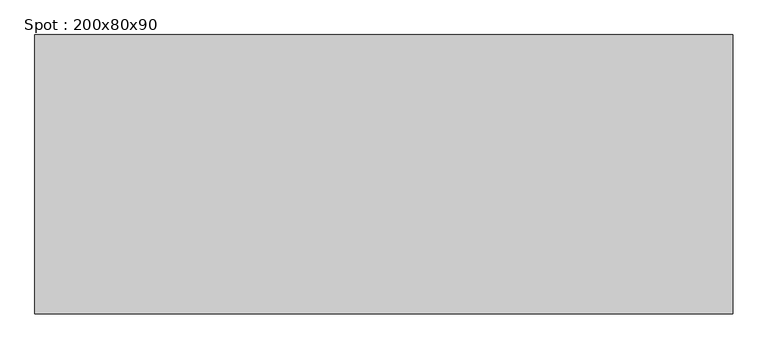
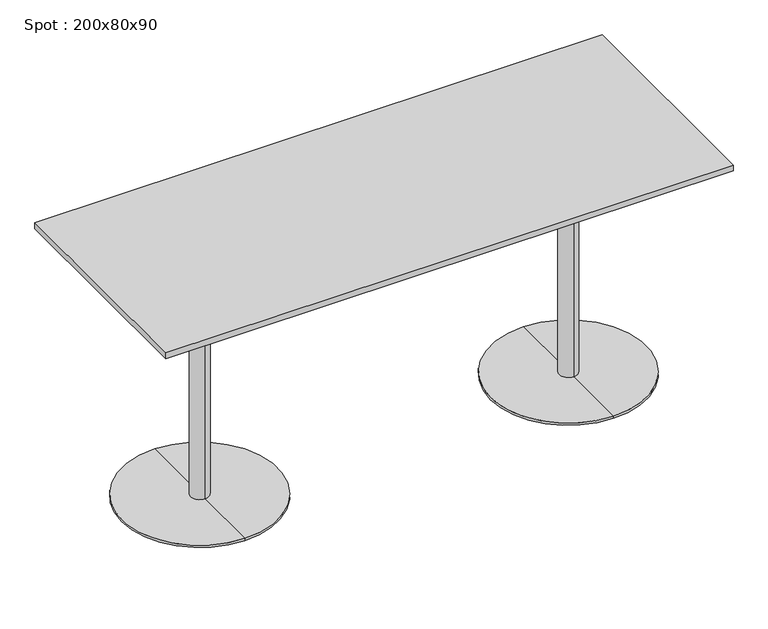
"""IFC4 building model written with IfcOpenShell, lengths in millimetres: furniture geometry, Spot : 200x80x90."""

import ifcopenshell
import ifcopenshell.guid

model = None  # the IFC model being written
_history = None  # IfcOwnerHistory: only IFC2X3 demands one
_inside = {}  # id of a spatial element -> (the spatial element, [elements in it])
_under = {}  # id of a project, library or spatial element -> (it, [spatial elements below it])
_declared = {}  # id of a project -> (the project, [libraries it declares])
_typed = {}  # id of a type object -> (the type object, [elements of that type])
_made_of = {}  # id of a material, layer set ... -> (it, [elements and type objects made of it])


def new_model(schema):
    """Start an empty IFC model of exactly this schema.

    Asked for "IFC4X3", IfcOpenShell would pick the latest addendum, in which some entities
    have other attributes; the version numbers below select the first issue.
    IFC2X3 requires an IfcOwnerHistory on every rooted entity: one is made here for all.
    """
    global model, _history
    if schema == "IFC4X3":
        model = ifcopenshell.file(schema_version=(4, 3, 0, 0))
    else:
        model = ifcopenshell.file(schema=schema)
    _inside.clear()
    _under.clear()
    _declared.clear()
    _typed.clear()
    _made_of.clear()
    _history = None
    if model.schema == "IFC2X3":
        org = make("IfcOrganization", Name="unknown")
        user = make(
            "IfcPersonAndOrganization",
            ThePerson=make("IfcPerson", FamilyName="unknown"),
            TheOrganization=org,
        )
        app = make(
            "IfcApplication",
            ApplicationDeveloper=org,
            Version="unknown",
            ApplicationFullName="unknown",
            ApplicationIdentifier="unknown",
        )
        _history = make(
            "IfcOwnerHistory",
            OwningUser=user,
            OwningApplication=app,
            ChangeAction="ADDED",
            CreationDate=0,
        )
    return model


def make(cls, **values):
    """One entity of the class cls with the attributes given. An attribute that is None is left unset."""
    return model.create_entity(
        cls, **{name: value for name, value in values.items() if value is not None}
    )


def rooted(cls, **values):
    """An entity with a GlobalId (a new one), such as an element, a storey or a relation."""
    return make(cls, GlobalId=ifcopenshell.guid.new(), OwnerHistory=_history, **values)


def si_unit(unit_type, name, prefix=None):
    """IfcSIUnit, for example si_unit("LENGTHUNIT", "METRE", prefix="MILLI")."""
    return make("IfcSIUnit", UnitType=unit_type, Prefix=prefix, Name=name)


def assignment(units):
    """IfcUnitAssignment: the units of a project."""
    return None if units is None else make("IfcUnitAssignment", Units=units)


def point(xyz):
    """IfcCartesianPoint."""
    return None if xyz is None else make("IfcCartesianPoint", Coordinates=xyz)


def direction(xyz):
    """IfcDirection."""
    return None if xyz is None else make("IfcDirection", DirectionRatios=xyz)


def frame(location, z_axis=None, x_axis=None):
    """IfcAxis2Placement3D, a coordinate frame: its origin and axes. An axis left out is left unset."""
    return make(
        "IfcAxis2Placement3D",
        Location=point(location),
        Axis=direction(z_axis),
        RefDirection=direction(x_axis),
    )


def origin():
    """The frame at (0, 0, 0) with its axes left unset."""
    return frame((0.0, 0.0, 0.0))


def place(relative_to, where):
    """IfcLocalPlacement: puts the frame where relative to a parent placement (None: the world)."""
    return make(
        "IfcLocalPlacement", PlacementRelTo=relative_to, RelativePlacement=where
    )


def context(
    kind, dimensions, precision=None, world=None, true_north=None, identifier=None
):
    """IfcGeometricRepresentationContext, for example the 3D "Model" context."""
    return make(
        "IfcGeometricRepresentationContext",
        ContextIdentifier=identifier,
        ContextType=kind,
        CoordinateSpaceDimension=dimensions,
        Precision=precision,
        WorldCoordinateSystem=world,
        TrueNorth=true_north,
    )


def project(units=None, contexts=None):
    """IfcProject with its units and contexts."""
    return rooted(
        "IfcProject",
        Name="project",
        RepresentationContexts=contexts,
        UnitsInContext=assignment(units),
    )


def spatial(cls, under=None, at=None, **own):
    """A site, building, storey or space (cls), placed at a placement, below another one or the project."""
    s = rooted(cls, ObjectPlacement=at, **own)
    if under is not None:
        _under.setdefault(under.id(), (under, []))[1].append(s)
    return s


def polyline(points):
    """IfcPolyline through the points."""
    return make("IfcPolyline", Points=[point(p) for p in points])


def circle_curve(where, radius):
    """IfcCircle in the frame where."""
    return make("IfcCircle", Position=where, Radius=radius)


def outline(outer, holes=None, kind="AREA"):
    """IfcArbitraryClosedProfileDef: a profile drawn as a closed curve; with holes, ...WithVoids."""
    if holes is None:
        return make("IfcArbitraryClosedProfileDef", ProfileType=kind, OuterCurve=outer)
    return make(
        "IfcArbitraryProfileDefWithVoids",
        ProfileType=kind,
        OuterCurve=outer,
        InnerCurves=holes,
    )


def extrude(swept, where, along, depth):
    """IfcExtrudedAreaSolid: the profile swept, set in the frame where, extruded along a direction by depth."""
    return make(
        "IfcExtrudedAreaSolid",
        SweptArea=swept,
        Position=where,
        ExtrudedDirection=direction(along),
        Depth=depth,
    )


def shape(context_of_items, identifier, shape_type, items):
    """IfcShapeRepresentation: the items that make up one representation, for example the "Body"."""
    return make(
        "IfcShapeRepresentation",
        ContextOfItems=context_of_items,
        RepresentationIdentifier=identifier,
        RepresentationType=shape_type,
        Items=items,
    )


def source(mapping_origin, context_of_items, identifier, shape_type, items):
    """IfcRepresentationMap: a shape defined once, which mapped items show again and again."""
    return make(
        "IfcRepresentationMap",
        MappingOrigin=mapping_origin,
        MappedRepresentation=shape(context_of_items, identifier, shape_type, items),
    )


def transform(
    local_origin,
    x_axis=None,
    y_axis=None,
    z_axis=None,
    scale=None,
    scale2=None,
    scale3=None,
    uniform=True,
):
    """IfcCartesianTransformationOperator3D, or its non-uniform kind. x_axis, y_axis, z_axis: its Axis1, 2, 3."""
    if uniform:
        return make(
            "IfcCartesianTransformationOperator3D",
            Axis1=direction(x_axis),
            Axis2=direction(y_axis),
            LocalOrigin=point(local_origin),
            Scale=scale,
            Axis3=direction(z_axis),
        )
    return make(
        "IfcCartesianTransformationOperator3DnonUniform",
        Axis1=direction(x_axis),
        Axis2=direction(y_axis),
        LocalOrigin=point(local_origin),
        Scale=scale,
        Axis3=direction(z_axis),
        Scale2=scale2,
        Scale3=scale3,
    )


def mapped(mapping_source, mapping_target):
    """IfcMappedItem: shows the shape of a source again, moved by a transform."""
    return make(
        "IfcMappedItem", MappingSource=mapping_source, MappingTarget=mapping_target
    )


def made_of(thing, what):
    """Note that an element or type object is made of a material, layer set ...; save() writes the relation."""
    if what is not None:
        _made_of.setdefault(what.id(), (what, []))[1].append(thing)
    return thing


def element(
    cls,
    number,
    at=None,
    inside=None,
    cuts=None,
    type_object=None,
    material=None,
    context=None,
    identifier="Body",
    shape_type=None,
    held_by="IfcProductDefinitionShape",
    body=None,
    shapes=None,
    **own,
):
    """One element of the class cls, such as IfcWall. Its Tag is "e" and its number.

    at: its placement. inside: the storey or other place that contains it. cuts: it is an
    opening in that element (IfcRelVoidsElement). A single representation is given by context,
    identifier, shape_type and body (its items); several are given by shapes. held_by: the class
    of the entity that holds the representations. save() writes the other relations.
    """
    e = rooted(cls, Tag="e%d" % number, ObjectPlacement=at, **own)
    if body is not None:
        shapes = [shape(context, identifier, shape_type, body)]
    if shapes is not None:
        e.Representation = make(held_by, Representations=shapes)
    if inside is not None:
        _inside.setdefault(inside.id(), (inside, []))[1].append(e)
    if cuts is not None:
        rooted(
            "IfcRelVoidsElement", RelatingBuildingElement=cuts, RelatedOpeningElement=e
        )
    if type_object is not None:
        _typed.setdefault(type_object.id(), (type_object, []))[1].append(e)
    return made_of(e, material)


def aggregate(whole, parts):
    """IfcRelAggregates: a whole, such as a stair, and the parts it consists of."""
    return rooted("IfcRelAggregates", RelatingObject=whole, RelatedObjects=parts)


def save(model, path):
    """Write the relations noted so far, then the file.

    IfcRelAggregates (storeys below a building ...), IfcRelContainedInSpatialStructure (elements
    in a storey), IfcRelDefinesByType, IfcRelAssociatesMaterial and IfcRelDeclares: one each for
    every whole, place, type object, material and project.
    """
    for whole, parts in _under.values():
        aggregate(whole, parts)
    for where, things in _inside.values():
        rooted(
            "IfcRelContainedInSpatialStructure",
            RelatedElements=things,
            RelatingStructure=where,
        )
    for kind, things in _typed.values():
        rooted("IfcRelDefinesByType", RelatedObjects=things, RelatingType=kind)
    for what, things in _made_of.values():
        rooted("IfcRelAssociatesMaterial", RelatedObjects=things, RelatingMaterial=what)
    for by, libraries in _declared.values():
        rooted("IfcRelDeclares", RelatingContext=by, RelatedDefinitions=libraries)
    model.write(path)


def plane_surface(at):
    """IfcPlane: the flat surface through the origin of the frame at, square to its z axis."""
    return make("IfcPlane", Position=at)


def cylinder_surface(at, radius):
    """IfcCylindricalSurface: all points at the distance radius from the z axis of the frame at."""
    return make("IfcCylindricalSurface", Position=at, Radius=radius)


def revolved_surface(curve, axis_point, axis_direction):
    """IfcSurfaceOfRevolution: the curve turned about the line through axis_point along axis_direction."""
    return make(
        "IfcSurfaceOfRevolution",
        SweptCurve=make("IfcArbitraryOpenProfileDef", ProfileType="CURVE", Curve=curve),
        AxisPosition=make("IfcAxis1Placement", Location=point(axis_point), Axis=direction(axis_direction)),
    )


def advanced_brep(points, edges, surfaces, faces):
    """IfcAdvancedBrep: a solid bounded by faces that lie on surfaces and meet in shared edges.

    An edge is (start, end): straight between two places in points (the first is 0);
    or (start, end, curve); or (start, end, curve, False) where it runs against its curve.
    A face is (place in surfaces, loops), or (place, loops, False) where it looks against
    its surface's normal. A loop lists edges by number (the first is 1), with a minus sign
    where the edge is run from its end to its start. The first loop is the outer one.
    """
    corners = [point(p) for p in points]
    vertices = [make("IfcVertexPoint", VertexGeometry=c) for c in corners]
    made = []
    for start, end, *more in edges:
        made.append(
            make(
                "IfcEdgeCurve",
                EdgeStart=vertices[start],
                EdgeEnd=vertices[end],
                EdgeGeometry=more[0] if more else make("IfcPolyline", Points=[corners[start], corners[end]]),
                SameSense=more[1] if len(more) > 1 else True,
            )
        )
    hull = []
    for where, loops, *sense in faces:
        bounds = []
        for j, loop in enumerate(loops):
            ring = [make("IfcOrientedEdge", EdgeElement=made[abs(k) - 1], Orientation=k > 0) for k in loop]
            bounds.append(
                make(
                    "IfcFaceOuterBound" if j == 0 else "IfcFaceBound",
                    Bound=make("IfcEdgeLoop", EdgeList=ring),
                    Orientation=True,
                )
            )
        hull.append(make("IfcAdvancedFace", Bounds=bounds, FaceSurface=surfaces[where], SameSense=sense[0] if sense else True))
    return make("IfcAdvancedBrep", Outer=make("IfcClosedShell", CfsFaces=hull))


def spot_200x80x90_3aac95c0(model_context):
    return source(origin(), model_context, "Body", "SolidModel", [
        extrude(outline(polyline([(1000.0, 400.0), (1000.0, -400.0), (-1000.0, -400.0), (-1000.0, 400.0), (1000.0, 400.0)])), frame((0.0, 0.0, 878.0), z_axis=(0.0, 0.0, 1.0), x_axis=(1.0, 0.0, 0.0)), (0.0, 0.0, 1.0), 22.0),
        advanced_brep(
        [(-650.0, 32.0, 10.0), (-650.0, -32.0, 10.0), (-650.0, -32.0, 847.406916), (-650.0, 32.0, 847.406916), (-650.0, 275.0, 10.0), (-650.0, -275.0, 10.0), (-650.0, 275.0, 2.0), (-650.0, -275.0, 2.0), (-650.0, 0.0, 2.0), (-650.0, 150.0, 878.0), (-650.0, -150.0, 878.0), (-650.0, 0.0, 878.0), (-650.0, 150.0, 866.7213673), (-650.0, -150.0, 866.7213673)],
        [
            (0, 1, circle_curve(frame((-650.0, 0.0, 10.0), z_axis=(0.0, 0.0, 1.0), x_axis=(0.0, -1.0, 0.0)), 32.0)),
            (1, 2),
            (2, 3, circle_curve(frame((-650.0, 0.0, 847.406916), z_axis=(0.0, 0.0, -1.0), x_axis=(0.0, -1.0, 0.0)), 32.0)),
            (3, 0),
            (1, 0, circle_curve(frame((-650.0, 0.0, 10.0), z_axis=(0.0, 0.0, 1.0), x_axis=(0.0, -1.0, 0.0)), 32.0)),
            (3, 2, circle_curve(frame((-650.0, 0.0, 847.406916), z_axis=(0.0, 0.0, -1.0), x_axis=(0.0, -1.0, 0.0)), 32.0)),
            (4, 5, circle_curve(frame((-650.0, 0.0, 10.0), z_axis=(0.0, 0.0, 1.0), x_axis=(0.0, -1.0, 0.0)), 275.0)),
            (5, 1),
            (0, 4),
            (5, 4, circle_curve(frame((-650.0, 0.0, 10.0), z_axis=(0.0, 0.0, 1.0), x_axis=(0.0, -1.0, 0.0)), 275.0)),
            (6, 7, circle_curve(frame((-650.0, 0.0, 2.0), z_axis=(0.0, 0.0, 1.0), x_axis=(0.0, -1.0, 0.0)), 275.0)),
            (7, 5),
            (4, 6),
            (7, 6, circle_curve(frame((-650.0, 0.0, 2.0), z_axis=(0.0, 0.0, 1.0), x_axis=(0.0, -1.0, 0.0)), 275.0)),
            (8, 7),
            (6, 8),
            (9, 10, circle_curve(frame((-650.0, 0.0, 878.0), z_axis=(0.0, 0.0, 1.0), x_axis=(0.0, -1.0, 0.0)), 150.0)),
            (10, 11),
            (11, 9),
            (10, 9, circle_curve(frame((-650.0, 0.0, 878.0), z_axis=(0.0, 0.0, 1.0), x_axis=(0.0, -1.0, 0.0)), 150.0)),
            (12, 13, circle_curve(frame((-650.0, 0.0, 866.7213673), z_axis=(0.0, 0.0, 1.0), x_axis=(0.0, -1.0, 0.0)), 150.0)),
            (13, 10),
            (9, 12),
            (13, 12, circle_curve(frame((-650.0, 0.0, 866.7213673), z_axis=(0.0, 0.0, 1.0), x_axis=(0.0, -1.0, 0.0)), 150.0)),
            (2, 13),
            (12, 3),
        ],
        [
            cylinder_surface(frame((-650.0, 0.0, 1240.0), z_axis=(0.0, 0.0, -1.0), x_axis=(0.0, -1.0, 0.0)), 32.0),
            plane_surface(frame((-650.0, 0.0, 10.0), z_axis=(0.0, 0.0, 1.0), x_axis=(0.0, -1.0, 0.0))),
            cylinder_surface(frame((-650.0, 0.0, 1240.0), z_axis=(0.0, 0.0, -1.0), x_axis=(0.0, -1.0, 0.0)), 275.0),
            plane_surface(frame((-650.0, 0.0, 2.0), z_axis=(0.0, 0.0, -1.0), x_axis=(0.0, -1.0, 0.0))),
            plane_surface(frame((-650.0, 0.0, 878.0), z_axis=(0.0, 0.0, 1.0), x_axis=(0.0, -1.0, 0.0))),
            cylinder_surface(frame((-650.0, 0.0, 1240.0), z_axis=(0.0, 0.0, -1.0), x_axis=(0.0, -1.0, 0.0)), 150.0),
            revolved_surface(polyline([(-650.0, -150.0, 866.7213673), (-650.0, -32.0, 847.406916)]), (-650.0, 0.0, 1240.0), (0.0, 0.0, -1.0)),
        ],
        [
            (0, [[1, 2, 3, 4]]),
            (0, [[5, -4, 6, -2]]),
            (1, [[7, 8, -1, 9]]),
            (1, [[10, -9, -5, -8]]),
            (2, [[11, 12, -7, 13]]),
            (2, [[14, -13, -10, -12]]),
            (3, [[15, -11, 16]]),
            (3, [[-16, -14, -15]]),
            (4, [[17, 18, 19]]),
            (4, [[20, -19, -18]]),
            (5, [[21, 22, -17, 23]]),
            (5, [[24, -23, -20, -22]]),
            (6, [[-3, 25, -21, 26]]),
            (6, [[-6, -26, -24, -25]]),
        ],
    ),
        advanced_brep(
        [(650.0, 32.0, 10.0), (650.0, -32.0, 10.0), (650.0, -32.0, 847.406916), (650.0, 32.0, 847.406916), (650.0, 275.0, 10.0), (650.0, -275.0, 10.0), (650.0, 275.0, 2.0), (650.0, -275.0, 2.0), (650.0, 0.0, 2.0), (650.0, 150.0, 878.0), (650.0, -150.0, 878.0), (650.0, 0.0, 878.0), (650.0, 150.0, 866.7213673), (650.0, -150.0, 866.7213673)],
        [
            (0, 1, circle_curve(frame((650.0, 0.0, 10.0), z_axis=(0.0, 0.0, 1.0), x_axis=(0.0, -1.0, 0.0)), 32.0)),
            (1, 2),
            (2, 3, circle_curve(frame((650.0, 0.0, 847.406916), z_axis=(0.0, 0.0, -1.0), x_axis=(0.0, -1.0, 0.0)), 32.0)),
            (3, 0),
            (1, 0, circle_curve(frame((650.0, 0.0, 10.0), z_axis=(0.0, 0.0, 1.0), x_axis=(0.0, -1.0, 0.0)), 32.0)),
            (3, 2, circle_curve(frame((650.0, 0.0, 847.406916), z_axis=(0.0, 0.0, -1.0), x_axis=(0.0, -1.0, 0.0)), 32.0)),
            (4, 5, circle_curve(frame((650.0, 0.0, 10.0), z_axis=(0.0, 0.0, 1.0), x_axis=(0.0, -1.0, 0.0)), 275.0)),
            (5, 1),
            (0, 4),
            (5, 4, circle_curve(frame((650.0, 0.0, 10.0), z_axis=(0.0, 0.0, 1.0), x_axis=(0.0, -1.0, 0.0)), 275.0)),
            (6, 7, circle_curve(frame((650.0, 0.0, 2.0), z_axis=(0.0, 0.0, 1.0), x_axis=(0.0, -1.0, 0.0)), 275.0)),
            (7, 5),
            (4, 6),
            (7, 6, circle_curve(frame((650.0, 0.0, 2.0), z_axis=(0.0, 0.0, 1.0), x_axis=(0.0, -1.0, 0.0)), 275.0)),
            (8, 7),
            (6, 8),
            (9, 10, circle_curve(frame((650.0, 0.0, 878.0), z_axis=(0.0, 0.0, 1.0), x_axis=(0.0, -1.0, 0.0)), 150.0)),
            (10, 11),
            (11, 9),
            (10, 9, circle_curve(frame((650.0, 0.0, 878.0), z_axis=(0.0, 0.0, 1.0), x_axis=(0.0, -1.0, 0.0)), 150.0)),
            (12, 13, circle_curve(frame((650.0, 0.0, 866.7213673), z_axis=(0.0, 0.0, 1.0), x_axis=(0.0, -1.0, 0.0)), 150.0)),
            (13, 10),
            (9, 12),
            (13, 12, circle_curve(frame((650.0, 0.0, 866.7213673), z_axis=(0.0, 0.0, 1.0), x_axis=(0.0, -1.0, 0.0)), 150.0)),
            (2, 13),
            (12, 3),
        ],
        [
            cylinder_surface(frame((650.0, 0.0, 1240.0), z_axis=(0.0, 0.0, -1.0), x_axis=(0.0, -1.0, 0.0)), 32.0),
            plane_surface(frame((650.0, 0.0, 10.0), z_axis=(0.0, 0.0, 1.0), x_axis=(0.0, -1.0, 0.0))),
            cylinder_surface(frame((650.0, 0.0, 1240.0), z_axis=(0.0, 0.0, -1.0), x_axis=(0.0, -1.0, 0.0)), 275.0),
            plane_surface(frame((650.0, 0.0, 2.0), z_axis=(0.0, 0.0, -1.0), x_axis=(0.0, -1.0, 0.0))),
            plane_surface(frame((650.0, 0.0, 878.0), z_axis=(0.0, 0.0, 1.0), x_axis=(0.0, -1.0, 0.0))),
            cylinder_surface(frame((650.0, 0.0, 1240.0), z_axis=(0.0, 0.0, -1.0), x_axis=(0.0, -1.0, 0.0)), 150.0),
            revolved_surface(polyline([(650.0, -150.0, 866.7213673), (650.0, -32.0, 847.406916)]), (650.0, 0.0, 1240.0), (0.0, 0.0, -1.0)),
        ],
        [
            (0, [[1, 2, 3, 4]]),
            (0, [[5, -4, 6, -2]]),
            (1, [[7, 8, -1, 9]]),
            (1, [[10, -9, -5, -8]]),
            (2, [[11, 12, -7, 13]]),
            (2, [[14, -13, -10, -12]]),
            (3, [[15, -11, 16]]),
            (3, [[-16, -14, -15]]),
            (4, [[17, 18, 19]]),
            (4, [[20, -19, -18]]),
            (5, [[21, 22, -17, 23]]),
            (5, [[24, -23, -20, -22]]),
            (6, [[-3, 25, -21, 26]]),
            (6, [[-6, -26, -24, -25]]),
        ],
    ),
    ])


if __name__ == "__main__":
    model = new_model("IFC4")
    model_context = context("Model", 3, world=origin())
    ifc_project = project(units=[si_unit("LENGTHUNIT", "METRE", prefix="MILLI")], contexts=[model_context])
    site = spatial("IfcSite", under=ifc_project)
    building = spatial("IfcBuilding", under=site)
    placement = place(None, origin())
    spot_200x80x90_shape = spot_200x80x90_3aac95c0(model_context)
    element("IfcFurniture", 1, ObjectType="Spot : 200x80x90", at=placement, inside=building, context=model_context, shape_type="MappedRepresentation", body=[
        mapped(spot_200x80x90_shape, transform((0.0, 0.0, 0.0), x_axis=(1.0, 0.0, 0.0), y_axis=(0.0, 1.0, 0.0), z_axis=(0.0, 0.0, 1.0))),
    ])
    save(model, "model.ifc")
